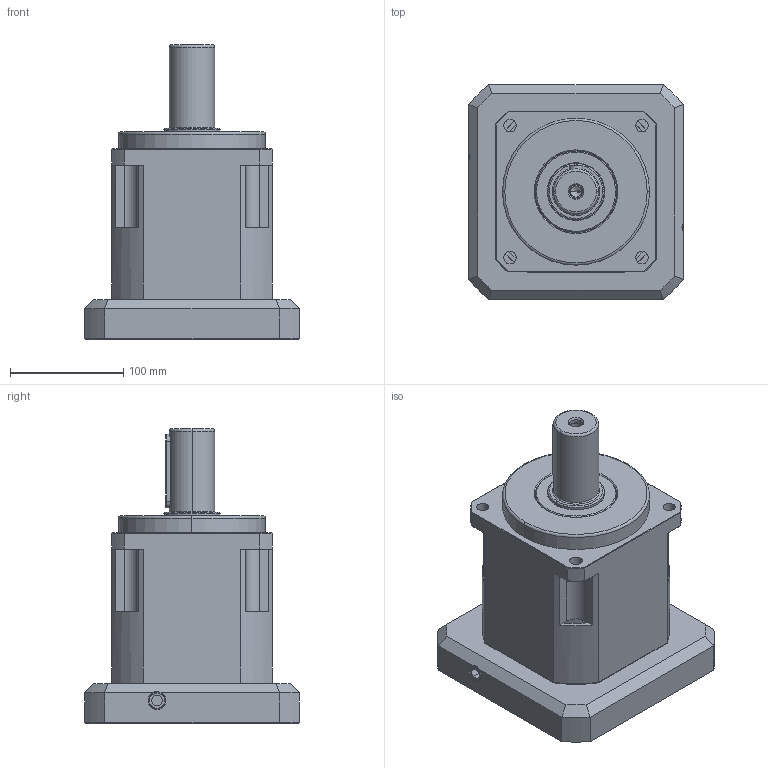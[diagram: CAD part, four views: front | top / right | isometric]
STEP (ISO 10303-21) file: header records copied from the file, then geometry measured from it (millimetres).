
FILE_DESCRIPTION (( 'STEP AP203' ), '1' );
FILE_NAME ('SB142-1-180M12-K.step', '2021-06-29T00:28:56', ( '' ), ( '' ), 'SwSTEP 2.0', 'SolidWorks 2020', '' );
FILE_SCHEMA (( 'CONFIG_CONTROL_DESIGN' ));
Length unit declared in the file: millimetre
Products named in the file (1): SB142-1-180M12-K
Bounding box: 190 x 190 x 260.5 mm (x, y, z)
Volume: 2736603 mm3; surface area: 341008.6 mm2
Topology: 2 solids, 15 shells, 981 faces, 2354 edges, 1397 vertices
Faces by surface type: cylinder 326, plane 313, cone 186, torus 108, sphere 48
Entity records: 28427 total; most frequent: DIRECTION 5334, CARTESIAN_POINT 5291, ORIENTED_EDGE 4536, EDGE_CURVE 2268, AXIS2_PLACEMENT_3D 2182, VERTEX_POINT 1373, CIRCLE 1200, EDGE_LOOP 1073
